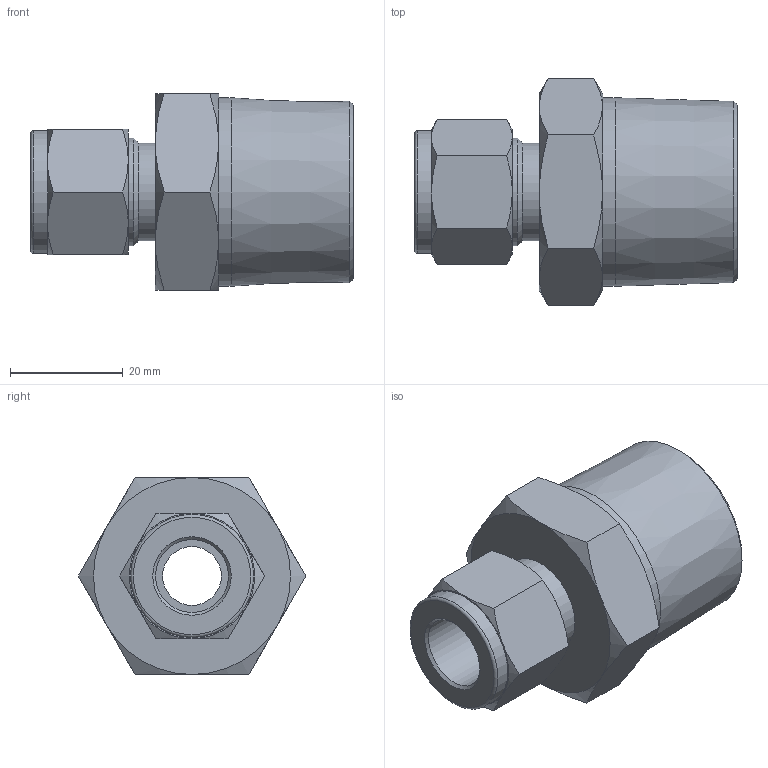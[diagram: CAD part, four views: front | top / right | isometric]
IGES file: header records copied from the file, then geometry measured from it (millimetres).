
Global section: file name: No Iges File Name specified; native system: Autodesk Inventor 2012; preprocessor: AutoDesk Inventor Iges Exporter R2012; author: 硅己绕,, ; organization: 11; date: 20150603.093142; units: millimetre
Bounding box: 57.2 x 40.3 x 34.9 mm (x, y, z)
Volume: 34366.2 mm3; surface area: 9458.4 mm2
Topology: 1 solids, 1 shells, 55 faces, 113 edges, 65 vertices
Faces by surface type: cone 27, plane 19, revolution 4, cylinder 4, torus 1
Full cylindrical faces by diameter (mm): 17.3 x1, 19.05 x1, 21.8 x1, 33.4 x1
